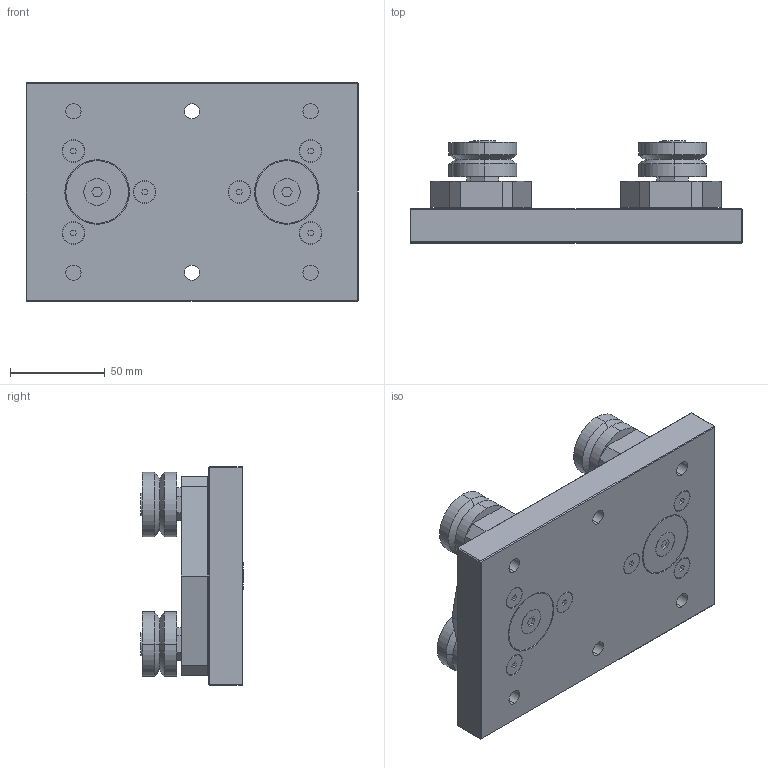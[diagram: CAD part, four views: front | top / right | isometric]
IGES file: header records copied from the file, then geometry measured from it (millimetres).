
Start section: 3D InterOp IGES (v. 2020 1.0.1), Spatial Corp. Copyright (c) 1999-2017.
Global section: file name: bcp44.igs; native system: Spatial Corp.; preprocessor: 3D InterOp ACIS/IGES; author: TraceParts; organization: TraceParts S.A.; date: 20220627.084348; units: millimetre
Bounding box: 175 x 53.85 x 115 mm (x, y, z)
Surface area: 99776.8 mm2 (no closed solid volume)
Topology: 0 solids, 0 shells, 312 faces, 1440 edges, 1440 vertices
Faces by surface type: extrusion 208, revolution 104
